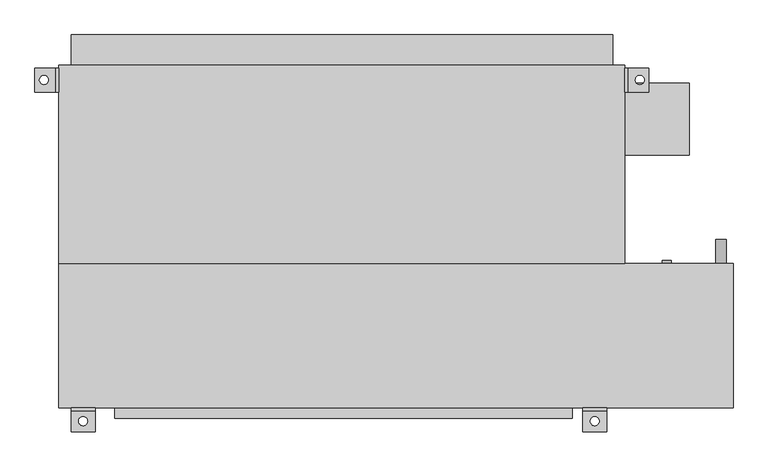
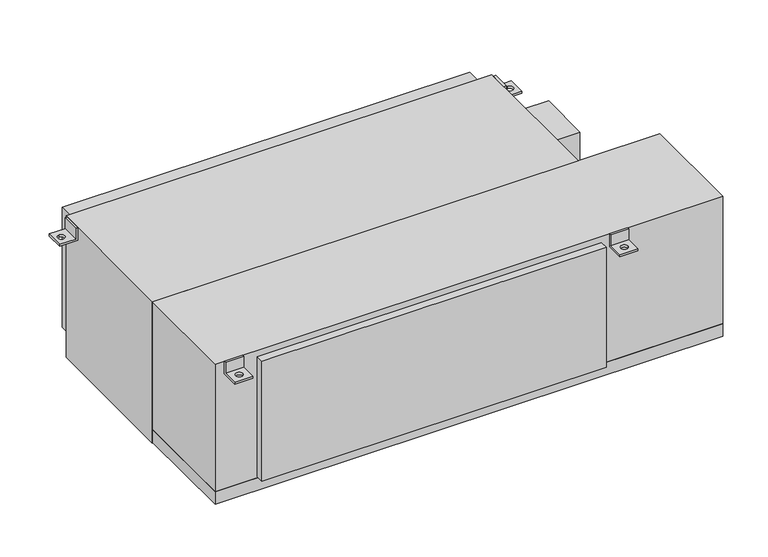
"""IFC4 building model written with IfcOpenShell, lengths in millimetres: proxy geometry, Concealed_High_Capacity_Horizontal_Fan_Coil_Unit_With_Plenum_-_42DCA_-_CARRIER_-_2-Pipe_Cool-EHeat_ValveEnclosure_RH_2022 : Size 16 - 277v/60Hz/1Ph - 6 Row 12.0kW."""

from ifc_helpers import new_model, si_unit, point, frame, frame_2d, origin, place, context, project, spatial, polyline, circle_curve, trimmed, segment, composite_curve, outline, extrude, source, transform, mapped, element, save
from ifc_brep_helpers import plane_surface, revolved_surface, advanced_brep


def mechanical_equipment_5bab922c(model_context):
    return source(origin(), model_context, "Body", "SolidModel", [
        advanced_brep(
        [(711.2, -390.525, 0.0), (711.2, -396.875, 0.0), (711.2, -396.875, -31.75), (711.2, -441.325, -31.75), (711.2, -441.325, -38.1), (711.2, -390.525, -38.1), (660.4, -390.525, 0.0), (660.4, -390.525, -38.1), (660.4, -441.325, -38.1), (660.4, -441.325, -31.75), (660.4, -396.875, -31.75), (660.4, -396.875, 0.0), (676.275, -419.1, -31.75), (695.325, -419.1, -31.75), (695.325, -419.1, -38.1), (676.275, -419.1, -38.1)],
        [
            (0, 1),
            (1, 2),
            (2, 3),
            (3, 4),
            (4, 5),
            (5, 0),
            (6, 7),
            (7, 8),
            (8, 9),
            (9, 10),
            (10, 11),
            (11, 6),
            (0, 6),
            (11, 1),
            (10, 2),
            (9, 3),
            (12, 13, circle_curve(frame((685.8, -419.1, -31.75), z_axis=(0.0, 0.0, -1.0), x_axis=(1.0, 0.0, 0.0)), 9.525)),
            (13, 12, circle_curve(frame((685.8, -419.1, -31.75), z_axis=(0.0, 0.0, -1.0), x_axis=(1.0, 0.0, 0.0)), 9.525)),
            (8, 4),
            (7, 5),
            (14, 15, circle_curve(frame((685.8, -419.1, -38.1), z_axis=(0.0, 0.0, 1.0), x_axis=(1.0, 0.0, 0.0)), 9.525)),
            (15, 14, circle_curve(frame((685.8, -419.1, -38.1), z_axis=(0.0, 0.0, 1.0), x_axis=(1.0, 0.0, 0.0)), 9.525)),
            (12, 15),
            (14, 13),
        ],
        [
            plane_surface(frame((711.2, -396.875, 0.0), z_axis=(1.0, 0.0, 0.0), x_axis=(0.0, -1.0, 0.0))),
            plane_surface(frame((660.4, -396.875, 0.0), z_axis=(-1.0, 0.0, 0.0), x_axis=(0.0, 1.0, 0.0))),
            plane_surface(frame((711.2, -390.525, 0.0), z_axis=(0.0, 0.0, 1.0), x_axis=(-1.0, 0.0, 0.0))),
            plane_surface(frame((711.2, -396.875, 0.0), z_axis=(0.0, -1.0, 0.0), x_axis=(-1.0, 0.0, 0.0))),
            plane_surface(frame((711.2, -396.875, -31.75), z_axis=(0.0, 0.0, 1.0), x_axis=(-1.0, 0.0, 0.0))),
            plane_surface(frame((711.2, -441.325, -31.75), z_axis=(0.0, -1.0, 0.0), x_axis=(-1.0, 0.0, 0.0))),
            plane_surface(frame((711.2, -441.325, -38.1), z_axis=(0.0, 0.0, -1.0), x_axis=(-1.0, 0.0, 0.0))),
            plane_surface(frame((711.2, -390.525, -38.1), z_axis=(0.0, 1.0, 0.0), x_axis=(-1.0, 0.0, 0.0))),
            revolved_surface(polyline([(695.3249999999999, -419.1, -38.1), (695.3249999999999, -419.1, -31.75)]), (685.8, -419.1, -31.75), (0.0, 0.0, -1.0)),
        ],
        [
            (0, [[1, 2, 3, 4, 5, 6]]),
            (1, [[7, 8, 9, 10, 11, 12]]),
            (2, [[-1, 13, -12, 14]]),
            (3, [[-2, -14, -11, 15]]),
            (4, [[-3, -15, -10, 16], [17, 18]]),
            (5, [[-4, -16, -9, 19]]),
            (6, [[-5, -19, -8, 20], [21, 22]]),
            (7, [[-6, -20, -7, -13]]),
            (8, [[23, -21, 24, -17]]),
            (8, [[-23, -18, -24, -22]]),
        ],
    ),
        advanced_brep(
        [(-368.3, -390.525, -38.1), (-368.3, -390.525, 0.0), (-368.3, -396.875, 0.0), (-368.3, -396.875, -31.75), (-368.3, -441.325, -31.75), (-368.3, -441.325, -38.1), (-419.1, -390.525, -38.1), (-419.1, -441.325, -38.1), (-419.1, -441.325, -31.75), (-419.1, -396.875, -31.75), (-419.1, -396.875, 0.0), (-419.1, -390.525, 0.0), (-403.225, -419.1, -31.75), (-384.175, -419.1, -31.75), (-384.175, -419.1, -38.1), (-403.225, -419.1, -38.1)],
        [
            (0, 1),
            (1, 2),
            (2, 3),
            (3, 4),
            (4, 5),
            (5, 0),
            (6, 7),
            (7, 8),
            (8, 9),
            (9, 10),
            (10, 11),
            (11, 6),
            (0, 6),
            (11, 1),
            (10, 2),
            (9, 3),
            (8, 4),
            (12, 13, circle_curve(frame((-393.7, -419.1, -31.75), z_axis=(0.0, 0.0, -1.0), x_axis=(1.0, 0.0, 0.0)), 9.525)),
            (13, 12, circle_curve(frame((-393.7, -419.1, -31.75), z_axis=(0.0, 0.0, -1.0), x_axis=(1.0, 0.0, 0.0)), 9.525)),
            (7, 5),
            (14, 15, circle_curve(frame((-393.7, -419.1, -38.1), z_axis=(0.0, 0.0, 1.0), x_axis=(1.0, 0.0, 0.0)), 9.525)),
            (15, 14, circle_curve(frame((-393.7, -419.1, -38.1), z_axis=(0.0, 0.0, 1.0), x_axis=(1.0, 0.0, 0.0)), 9.525)),
            (12, 15),
            (14, 13),
        ],
        [
            plane_surface(frame((-368.3, -390.525, -38.1), z_axis=(1.0, 0.0, 0.0), x_axis=(0.0, 0.0, 1.0))),
            plane_surface(frame((-419.1, -390.525, -38.1), z_axis=(-1.0, 0.0, 0.0), x_axis=(0.0, 0.0, -1.0))),
            plane_surface(frame((-368.3, -390.525, -38.1), z_axis=(0.0, 1.0, 0.0), x_axis=(-1.0, 0.0, 0.0))),
            plane_surface(frame((-368.3, -390.525, 0.0), z_axis=(0.0, 0.0, 1.0), x_axis=(-1.0, 0.0, 0.0))),
            plane_surface(frame((-368.3, -396.875, 0.0), z_axis=(0.0, -1.0, 0.0), x_axis=(-1.0, 0.0, 0.0))),
            plane_surface(frame((-368.3, -396.875, -31.75), z_axis=(0.0, 0.0, 1.0), x_axis=(-1.0, 0.0, 0.0))),
            plane_surface(frame((-368.3, -441.325, -31.75), z_axis=(0.0, -1.0, 0.0), x_axis=(-1.0, 0.0, 0.0))),
            plane_surface(frame((-368.3, -441.325, -38.1), z_axis=(0.0, 0.0, -1.0), x_axis=(-1.0, 0.0, 0.0))),
            revolved_surface(polyline([(-384.175, -419.1, -38.1), (-384.175, -419.1, -31.75)]), (-393.7, -419.1, -31.75), (0.0, 0.0, -1.0)),
        ],
        [
            (0, [[1, 2, 3, 4, 5, 6]]),
            (1, [[7, 8, 9, 10, 11, 12]]),
            (2, [[-1, 13, -12, 14]]),
            (3, [[-2, -14, -11, 15]]),
            (4, [[-3, -15, -10, 16]]),
            (5, [[-4, -16, -9, 17], [18, 19]]),
            (6, [[-5, -17, -8, 20]]),
            (7, [[-6, -20, -7, -13], [21, 22]]),
            (8, [[23, -21, 24, -18]]),
            (8, [[-23, -19, -24, -22]]),
        ],
    ),
        extrude(outline(composite_curve([segment(trimmed(circle_curve(frame_2d((-400.05, 952.5)), 11.1125), [point((-400.05, 941.3875))], [point((-400.05, 963.6125))], False, "CARTESIAN"), True, "CONTINUOUS"), segment(trimmed(circle_curve(frame_2d((-400.05, 952.5)), 11.1125), [point((-400.05, 963.6125))], [point((-400.05, 941.3875))], False, "CARTESIAN"), True, "CONTINUOUS")], self_intersect=False)), frame((0.0, -85.725, 0.0), z_axis=(0.0, 1.0, 0.0), x_axis=(0.0, 0.0, 1.0)), (0.0, 0.0, 1.0), 50.8),
        extrude(outline(composite_curve([segment(trimmed(circle_curve(frame_2d((-44.45, 838.2)), 9.525), [point((-44.45, 828.675))], [point((-44.45, 847.725))], False, "CARTESIAN"), True, "CONTINUOUS"), segment(trimmed(circle_curve(frame_2d((-44.45, 838.2)), 9.525), [point((-44.45, 847.725))], [point((-44.45, 828.675))], False, "CARTESIAN"), True, "CONTINUOUS")], self_intersect=False)), frame((0.0, -85.725, 0.0), z_axis=(0.0, 1.0, 0.0), x_axis=(0.0, 0.0, 1.0)), (0.0, 0.0, 1.0), 6.35),
        extrude(outline(composite_curve([segment(trimmed(circle_curve(frame_2d((-276.225, 838.2)), 9.525), [point((-276.225, 828.675))], [point((-276.225, 847.725))], False, "CARTESIAN"), True, "CONTINUOUS"), segment(trimmed(circle_curve(frame_2d((-276.225, 838.2)), 9.525), [point((-276.225, 847.725))], [point((-276.225, 828.675))], False, "CARTESIAN"), True, "CONTINUOUS")], self_intersect=False)), frame((0.0, -85.725, 0.0), z_axis=(0.0, 1.0, 0.0), x_axis=(0.0, 0.0, 1.0)), (0.0, 0.0, 1.0), 6.35),
        advanced_brep(
        [(-444.5, 327.025, -38.1), (-495.3, 327.025, -38.1), (-495.3, 327.025, -31.75), (-450.85, 327.025, -31.75), (-450.85, 327.025, 0.0), (-444.5, 327.025, 0.0), (-444.5, 276.225, -38.1), (-444.5, 276.225, 0.0), (-450.85, 276.225, 0.0), (-450.85, 276.225, -31.75), (-495.3, 276.225, -31.75), (-495.3, 276.225, -38.1), (-476.25, 292.1, -38.1), (-476.25, 311.15, -38.1), (-476.25, 311.15, -31.75), (-476.25, 292.1, -31.75)],
        [
            (0, 1),
            (1, 2),
            (2, 3),
            (3, 4),
            (4, 5),
            (5, 0),
            (6, 7),
            (7, 8),
            (8, 9),
            (9, 10),
            (10, 11),
            (11, 6),
            (0, 6),
            (11, 1),
            (12, 13, circle_curve(frame((-476.25, 301.625, -38.1), z_axis=(0.0, 0.0, 1.0), x_axis=(0.0, -1.0, 0.0)), 9.525)),
            (13, 12, circle_curve(frame((-476.25, 301.625, -38.1), z_axis=(0.0, 0.0, 1.0), x_axis=(0.0, -1.0, 0.0)), 9.525)),
            (10, 2),
            (9, 3),
            (14, 15, circle_curve(frame((-476.25, 301.625, -31.75), z_axis=(0.0, 0.0, -1.0), x_axis=(0.0, -1.0, 0.0)), 9.525)),
            (15, 14, circle_curve(frame((-476.25, 301.625, -31.75), z_axis=(0.0, 0.0, -1.0), x_axis=(0.0, -1.0, 0.0)), 9.525)),
            (8, 4),
            (7, 5),
            (14, 13),
            (12, 15),
        ],
        [
            plane_surface(frame((-444.5, 327.025, -38.1), z_axis=(0.0, 1.0, 0.0), x_axis=(-1.0, 0.0, 0.0))),
            plane_surface(frame((-444.5, 276.225, -38.1), z_axis=(0.0, -1.0, 0.0), x_axis=(1.0, 0.0, 0.0))),
            plane_surface(frame((-444.5, 327.025, -38.1), z_axis=(0.0, 0.0, -1.0), x_axis=(0.0, -1.0, 0.0))),
            plane_surface(frame((-495.3, 327.025, -38.1), z_axis=(-1.0, 0.0, 0.0), x_axis=(0.0, -1.0, 0.0))),
            plane_surface(frame((-495.3, 327.025, -31.75), z_axis=(0.0, 0.0, 1.0), x_axis=(0.0, -1.0, 0.0))),
            plane_surface(frame((-450.85, 327.025, -31.75), z_axis=(-1.0, 0.0, 0.0), x_axis=(0.0, -1.0, 0.0))),
            plane_surface(frame((-450.85, 327.025, 0.0), z_axis=(0.0, 0.0, 1.0), x_axis=(0.0, -1.0, 0.0))),
            plane_surface(frame((-444.5, 327.025, 0.0), z_axis=(1.0, 0.0, 0.0), x_axis=(0.0, -1.0, 0.0))),
            revolved_surface(polyline([(-476.25, 292.1, -38.1), (-476.25, 292.1, -31.75)]), (-476.25, 301.625, -31.75), (0.0, 0.0, -1.0)),
        ],
        [
            (0, [[1, 2, 3, 4, 5, 6]]),
            (1, [[7, 8, 9, 10, 11, 12]]),
            (2, [[-1, 13, -12, 14], [15, 16]]),
            (3, [[-2, -14, -11, 17]]),
            (4, [[-3, -17, -10, 18], [19, 20]]),
            (5, [[-4, -18, -9, 21]]),
            (6, [[-5, -21, -8, 22]]),
            (7, [[-6, -22, -7, -13]]),
            (8, [[23, -15, 24, -19]]),
            (8, [[-23, -20, -24, -16]]),
        ],
    ),
        advanced_brep(
        [(749.3, 327.025, -38.1), (749.3, 327.025, 0.0), (755.65, 327.025, 0.0), (755.65, 327.025, -31.75), (800.1, 327.025, -31.75), (800.1, 327.025, -38.1), (749.3, 276.225, -38.1), (800.1, 276.225, -38.1), (800.1, 276.225, -31.75), (755.65, 276.225, -31.75), (755.65, 276.225, 0.0), (749.3, 276.225, 0.0), (781.05, 311.15, -31.75), (781.05, 292.1, -31.75), (781.05, 292.1, -38.1), (781.05, 311.15, -38.1)],
        [
            (0, 1),
            (1, 2),
            (2, 3),
            (3, 4),
            (4, 5),
            (5, 0),
            (6, 7),
            (7, 8),
            (8, 9),
            (9, 10),
            (10, 11),
            (11, 6),
            (0, 6),
            (11, 1),
            (10, 2),
            (9, 3),
            (8, 4),
            (12, 13, circle_curve(frame((781.05, 301.625, -31.75), z_axis=(0.0, 0.0, -1.0), x_axis=(0.0, -1.0, 0.0)), 9.525)),
            (13, 12, circle_curve(frame((781.05, 301.625, -31.75), z_axis=(0.0, 0.0, -1.0), x_axis=(0.0, -1.0, 0.0)), 9.525)),
            (7, 5),
            (14, 15, circle_curve(frame((781.05, 301.625, -38.1), z_axis=(0.0, 0.0, 1.0), x_axis=(0.0, -1.0, 0.0)), 9.525)),
            (15, 14, circle_curve(frame((781.05, 301.625, -38.1), z_axis=(0.0, 0.0, 1.0), x_axis=(0.0, -1.0, 0.0)), 9.525)),
            (12, 15),
            (14, 13),
        ],
        [
            plane_surface(frame((-444.5, 327.025, -38.1), z_axis=(0.0, 1.0, 0.0), x_axis=(-1.0, 0.0, 0.0))),
            plane_surface(frame((-444.5, 276.225, -38.1), z_axis=(0.0, -1.0, 0.0), x_axis=(1.0, 0.0, 0.0))),
            plane_surface(frame((749.3, 327.025, -38.1), z_axis=(-1.0, 0.0, 0.0), x_axis=(0.0, -1.0, 0.0))),
            plane_surface(frame((749.3, 327.025, 0.0), z_axis=(0.0, 0.0, 1.0), x_axis=(0.0, -1.0, 0.0))),
            plane_surface(frame((755.65, 327.025, 0.0), z_axis=(1.0, 0.0, 0.0), x_axis=(0.0, -1.0, 0.0))),
            plane_surface(frame((755.65, 327.025, -31.75), z_axis=(0.0, 0.0, 1.0), x_axis=(0.0, -1.0, 0.0))),
            plane_surface(frame((800.1, 327.025, -31.75), z_axis=(1.0, 0.0, 0.0), x_axis=(0.0, -1.0, 0.0))),
            plane_surface(frame((800.1, 327.025, -38.1), z_axis=(0.0, 0.0, -1.0), x_axis=(0.0, -1.0, 0.0))),
            revolved_surface(polyline([(781.05, 292.1, -38.1), (781.05, 292.1, -31.75)]), (781.05, 301.625, -31.75), (0.0, 0.0, -1.0)),
        ],
        [
            (0, [[1, 2, 3, 4, 5, 6]]),
            (1, [[7, 8, 9, 10, 11, 12]]),
            (2, [[-1, 13, -12, 14]]),
            (3, [[-2, -14, -11, 15]]),
            (4, [[-3, -15, -10, 16]]),
            (5, [[-4, -16, -9, 17], [18, 19]]),
            (6, [[-5, -17, -8, 20]]),
            (7, [[-6, -20, -7, -13], [21, 22]]),
            (8, [[23, -21, 24, -18]]),
            (8, [[-23, -19, -24, -22]]),
        ],
    ),
        extrude(outline(polyline([(-419.1, 396.875), (723.9, 396.875), (723.9, 333.375), (-419.1, 333.375), (-419.1, 396.875)])), frame((0.0, 0.0, -377.825), z_axis=(0.0, 0.0, 1.0), x_axis=(1.0, 0.0, 0.0)), (0.0, 0.0, 1.0), 355.6),
        extrude(outline(polyline([(885.825, 295.275), (885.825, 142.875), (749.3, 142.875), (749.3, 295.275), (885.825, 295.275)])), frame((0.0, 0.0, -254.0), z_axis=(0.0, 0.0, 1.0), x_axis=(1.0, 0.0, 0.0)), (0.0, 0.0, 1.0), 152.4),
        extrude(outline(polyline([(638.175, -412.75), (-327.025, -412.75), (-327.025, -390.525), (638.175, -390.525), (638.175, -412.75)])), frame((0.0, 0.0, -374.65), z_axis=(0.0, 0.0, 1.0), x_axis=(1.0, 0.0, 0.0)), (0.0, 0.0, 1.0), 355.6),
        extrude(outline(polyline([(749.3, -85.725), (-444.5, -85.725), (-444.5, 333.375), (749.3, 333.375), (749.3, -85.725)])), frame((0.0, 0.0, -419.1), z_axis=(0.0, 0.0, 1.0), x_axis=(1.0, 0.0, 0.0)), (0.0, 0.0, 1.0), 419.1),
        extrude(outline(polyline([(977.9, -85.725), (977.9, -390.525), (-444.5, -390.525), (-444.5, -85.725), (977.9, -85.725)])), frame((0.0, 0.0, -377.825), z_axis=(0.0, 0.0, 1.0), x_axis=(1.0, 0.0, 0.0)), (0.0, 0.0, 1.0), 377.825),
        extrude(outline(polyline([(977.9, -85.725), (977.9, -390.525), (-444.5, -390.525), (-444.5, -85.725), (977.9, -85.725)])), frame((0.0, 0.0, -415.925), z_axis=(0.0, 0.0, 1.0), x_axis=(1.0, 0.0, 0.0)), (0.0, 0.0, 1.0), 38.1),
    ])


if __name__ == "__main__":
    model = new_model("IFC4")
    model_context = context("Model", 3, world=origin())
    ifc_project = project(units=[si_unit("LENGTHUNIT", "METRE", prefix="MILLI")], contexts=[model_context])
    site = spatial("IfcSite", under=ifc_project)
    building = spatial("IfcBuilding", under=site)
    placement = place(None, origin())
    mechanical_equipment_shape = mechanical_equipment_5bab922c(model_context)
    element("IfcBuildingElementProxy", 1, Name="Concealed_High_Capacity_Horizontal_Fan_Coil_Unit_With_Plenum_-_42DCA_-_CARRIER_-_2-Pipe_Cool-EHeat_ValveEnclosure_RH_2022 : Size 16 - 277v/60Hz/1Ph - 6 Row 12.0kW", ObjectType="Concealed_High_Capacity_Horizontal_Fan_Coil_Unit_With_Plenum_-_42DCA_-_CARRIER_-_2-Pipe_Cool-EHeat_ValveEnclosure_RH_2022 : Size 16 - 277v/60Hz/1Ph - 6 Row 12.0kW", at=placement, inside=building, context=model_context, shape_type="MappedRepresentation", body=[
        mapped(mechanical_equipment_shape, transform((0.0, 0.0, 0.0), x_axis=(1.0, 0.0, 0.0), y_axis=(0.0, 1.0, 0.0), z_axis=(0.0, 0.0, 1.0))),
    ])
    save(model, "model.ifc")
